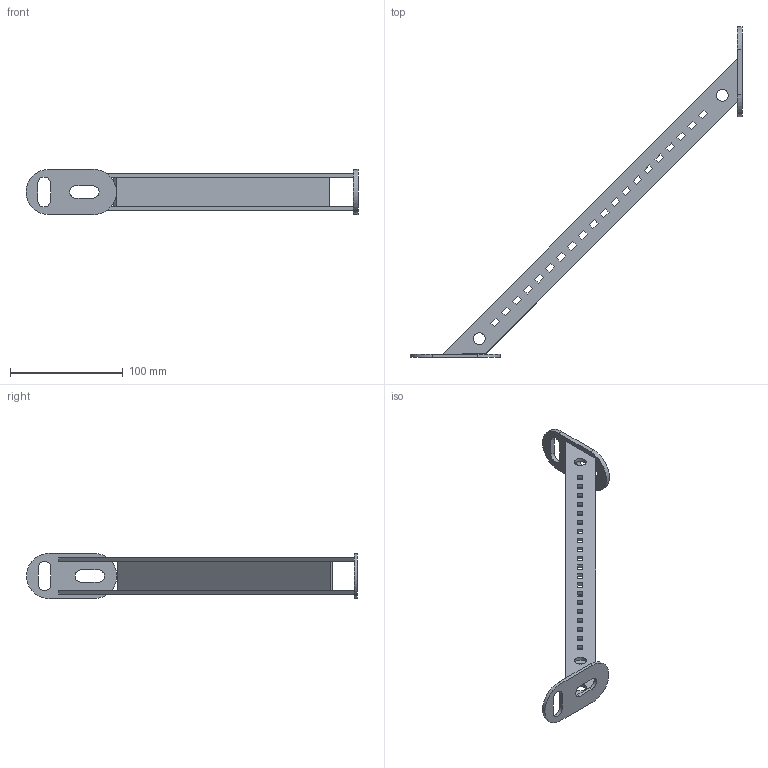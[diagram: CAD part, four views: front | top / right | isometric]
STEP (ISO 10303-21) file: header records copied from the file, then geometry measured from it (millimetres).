
FILE_DESCRIPTION (( 'STEP AP203' ), '1' );
FILE_NAME ('3D_R6438_30x15_173482400.STEP', '2024-08-26T11:40:38', ( '' ), ( '' ), 'SwSTEP 2.0', 'SolidWorks 2024', '' );
FILE_SCHEMA (( 'CONFIG_CONTROL_DESIGN' ));
Length unit declared in the file: millimetre
Products named in the file (1): 3D_R6438_30x15_173482400
Bounding box: 293.93 x 293 x 40.04 mm (x, y, z)
Volume: 87806.8 mm3; surface area: 65029.4 mm2
Topology: 2 solids, 2 shells, 213 faces, 621 edges, 414 vertices
Faces by surface type: plane 190, cylinder 23
Entity records: 7212 total; most frequent: CARTESIAN_POINT 1249, ORIENTED_EDGE 1242, DIRECTION 1095, EDGE_CURVE 621, VECTOR 575, LINE 575, VERTEX_POINT 414, EDGE_LOOP 313
